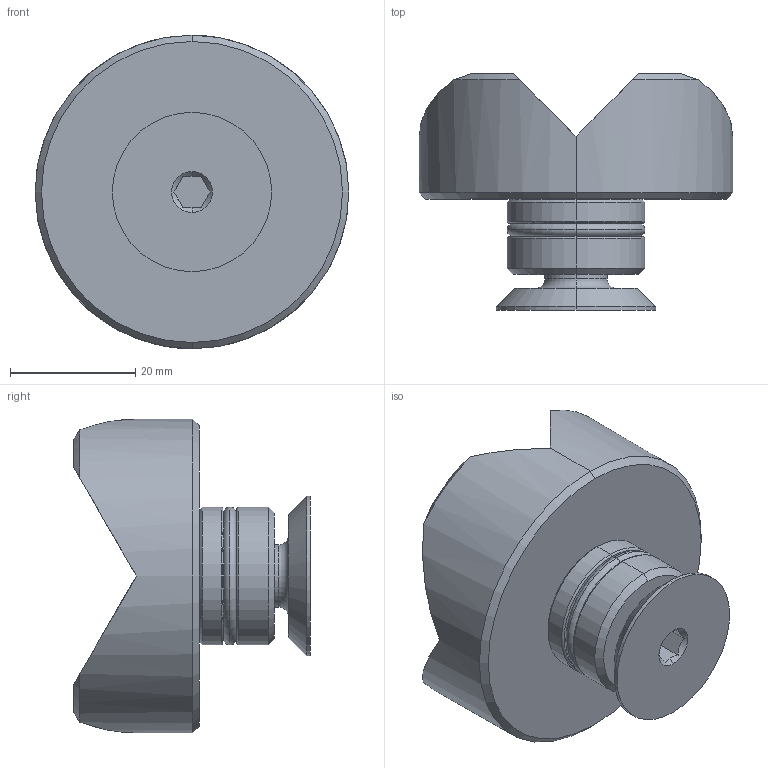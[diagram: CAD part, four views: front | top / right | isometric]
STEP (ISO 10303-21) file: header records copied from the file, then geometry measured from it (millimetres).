
FILE_DESCRIPTION (( 'STEP AP203' ), '1' );
FILE_NAME ('220645.1.STEP', '2020-03-03T14:01:03', ( '' ), ( '' ), 'SwSTEP 2.0', 'SolidWorks 2019', '' );
FILE_SCHEMA (( 'CONFIG_CONTROL_DESIGN' ));
Length unit declared in the file: millimetre
Products named in the file (5): 280645.1.T1 Vario Prisma D50 90-120_Br］iert; 220669 Prisma-Einschraubbund; 220645.1; O-ring DIN 3771 - 18x2_O-ring DIN 3771 - 18x2; 220649.0 Spezialschraube
Assembly tree (4 placements, depth 2):
  220645.1
    280645.1.T1 Vario Prisma D50 90-120_Br］iert
    220669 Prisma-Einschraubbund
    220649.0 Spezialschraube
    O-ring DIN 3771 - 18x2_O-ring DIN 3771 - 18x2
Bounding box: 50 x 37.73 x 50 mm (x, y, z)
Volume: 34968.4 mm3; surface area: 10993.6 mm2
Topology: 4 solids, 4 shells, 78 faces, 172 edges, 104 vertices
Faces by surface type: plane 28, cone 20, cylinder 16, torus 14
Entity records: 2727 total; most frequent: CARTESIAN_POINT 501, DIRECTION 390, ORIENTED_EDGE 344, EDGE_CURVE 172, AXIS2_PLACEMENT_3D 165, VERTEX_POINT 104, EDGE_LOOP 84, CIRCLE 80
